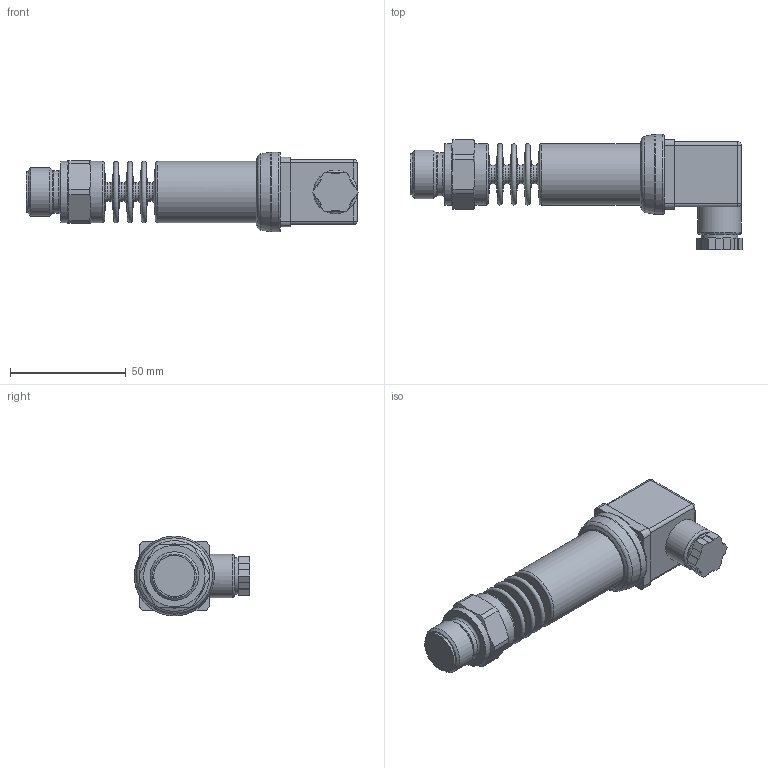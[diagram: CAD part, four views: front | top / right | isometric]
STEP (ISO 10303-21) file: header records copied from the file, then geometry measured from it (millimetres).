
FILE_DESCRIPTION(/* description */ (''),/* implementation_level */ '2;1');
FILE_NAME(/* name */ 'C:\Users\cz1166\Documents\STEP\DMP331P-50x-xxxx-x-x-100-Z00-1-0-x-200.stp',/* time_stamp */ '2020-04-20T10:11:11+02:00',/* author */ ('cz1166'),/* organization */ (''),/* preprocessor_version */ 'ST-DEVELOPER v16.5',/* originating_system */ 'Autodesk Inventor 2017',/* authorisation */ '');
FILE_SCHEMA (('AUTOMOTIVE_DESIGN { 1 0 10303 214 3 1 1 }'));
Length unit declared in the file: millimetre
Products named in the file (1): DMP331P-50x-xxxx-x-x-100-Z00-1-0-x-200
Bounding box: 143.29 x 49.75 x 34.5 mm (x, y, z)
Volume: 85101.2 mm3; surface area: 18551.1 mm2
Topology: 1 solids, 1 shells, 131 faces, 322 edges, 195 vertices
Faces by surface type: plane 61, cylinder 32, torus 20, cone 14, sphere 4
Full cylindrical faces by diameter (mm): 8 x4, 15.7 x1, 17.7 x1, 18.4 x1, 18.8 x1, 20.955 x1, 26.5 x3, 34.5 x1
Entity records: 3620 total; most frequent: DIRECTION 608, CARTESIAN_POINT 607, ORIENTED_EDGE 520, EDGE_CURVE 260, AXIS2_PLACEMENT_3D 230, EDGE_LOOP 181, VERTEX_POINT 181, LINE 148
